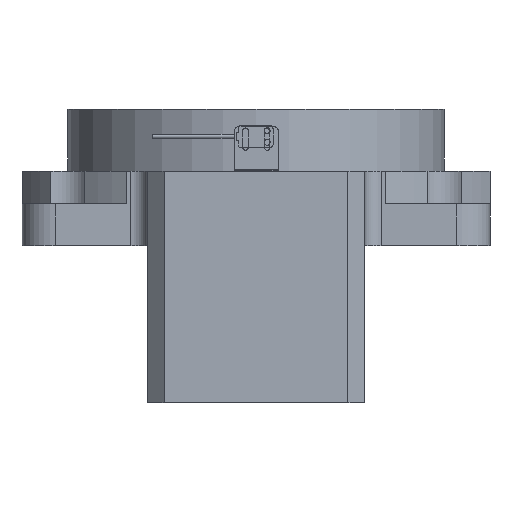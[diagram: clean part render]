
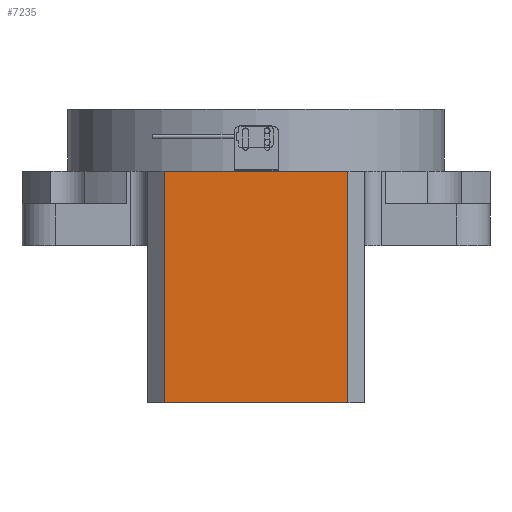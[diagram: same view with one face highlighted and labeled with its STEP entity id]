
A CAD part, front view. The second image highlights one B-rep face of the part: STEP entity #7235.
In plain terms, the highlighted planar face has unit normal (0, -1, 0).
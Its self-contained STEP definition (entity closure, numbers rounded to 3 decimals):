
#338 = VERTEX_POINT ( 'NONE', #8134 ) ;
#464 = LINE ( 'NONE', #4911, #8444 ) ;
#581 = VERTEX_POINT ( 'NONE', #2165 ) ;
#817 = CARTESIAN_POINT ( 'NONE',  ( 42.008, -177.645, 80.75 ) ) ;
#913 = FACE_OUTER_BOUND ( 'NONE', #9506, .T. ) ;
#937 = VECTOR ( 'NONE', #8904, 1000. ) ;
#1104 = ORIENTED_EDGE ( 'NONE', *, *, #2086, .F. ) ;
#1223 = DIRECTION ( 'NONE',  ( 0., 0., -1. ) ) ;
#1467 = EDGE_CURVE ( 'NONE', #3350, #338, #2683, .T. ) ;
#2086 = EDGE_CURVE ( 'NONE', #338, #7486, #6624, .T. ) ;
#2165 = CARTESIAN_POINT ( 'NONE',  ( -67.992, -177.645, -94.75 ) ) ;
#2552 = LINE ( 'NONE', #2602, #5048 ) ;
#2602 = CARTESIAN_POINT ( 'NONE',  ( -67.992, -177.645, 80.75 ) ) ;
#2683 = LINE ( 'NONE', #8717, #9329 ) ;
#2781 = ORIENTED_EDGE ( 'NONE', *, *, #1467, .F. ) ;
#2996 = EDGE_CURVE ( 'NONE', #3350, #581, #2552, .T. ) ;
#3350 = VERTEX_POINT ( 'NONE', #4092 ) ;
#3446 = DIRECTION ( 'NONE',  ( -1., 0., 0. ) ) ;
#3560 = ORIENTED_EDGE ( 'NONE', *, *, #2996, .T. ) ;
#3892 = DIRECTION ( 'NONE',  ( 0., 1., 0. ) ) ;
#4092 = CARTESIAN_POINT ( 'NONE',  ( -67.992, -177.645, 43.75 ) ) ;
#4777 = ORIENTED_EDGE ( 'NONE', *, *, #5144, .F. ) ;
#4911 = CARTESIAN_POINT ( 'NONE',  ( 42.008, -177.645, -94.75 ) ) ;
#5048 = VECTOR ( 'NONE', #1223, 1000. ) ;
#5144 = EDGE_CURVE ( 'NONE', #7486, #581, #464, .T. ) ;
#5497 = CARTESIAN_POINT ( 'NONE',  ( -67.992, -177.645, 80.75 ) ) ;
#6097 = PLANE ( 'NONE',  #7192 ) ;
#6624 = LINE ( 'NONE', #817, #937 ) ;
#6863 = DIRECTION ( 'NONE',  ( 1., 0., 0. ) ) ;
#7162 = DIRECTION ( 'NONE',  ( 1., 0., 0. ) ) ;
#7192 = AXIS2_PLACEMENT_3D ( 'NONE', #5497, #3892, #6863 ) ;
#7235 = ADVANCED_FACE ( 'NONE', ( #913 ), #6097, .F. ) ;
#7486 = VERTEX_POINT ( 'NONE', #9526 ) ;
#8134 = CARTESIAN_POINT ( 'NONE',  ( 42.008, -177.645, 43.75 ) ) ;
#8444 = VECTOR ( 'NONE', #3446, 1000. ) ;
#8717 = CARTESIAN_POINT ( 'NONE',  ( -67.992, -177.645, 43.75 ) ) ;
#8904 = DIRECTION ( 'NONE',  ( 0., 0., -1. ) ) ;
#9329 = VECTOR ( 'NONE', #7162, 1000. ) ;
#9506 = EDGE_LOOP ( 'NONE', ( #2781, #3560, #4777, #1104 ) ) ;
#9526 = CARTESIAN_POINT ( 'NONE',  ( 42.008, -177.645, -94.75 ) ) ;
